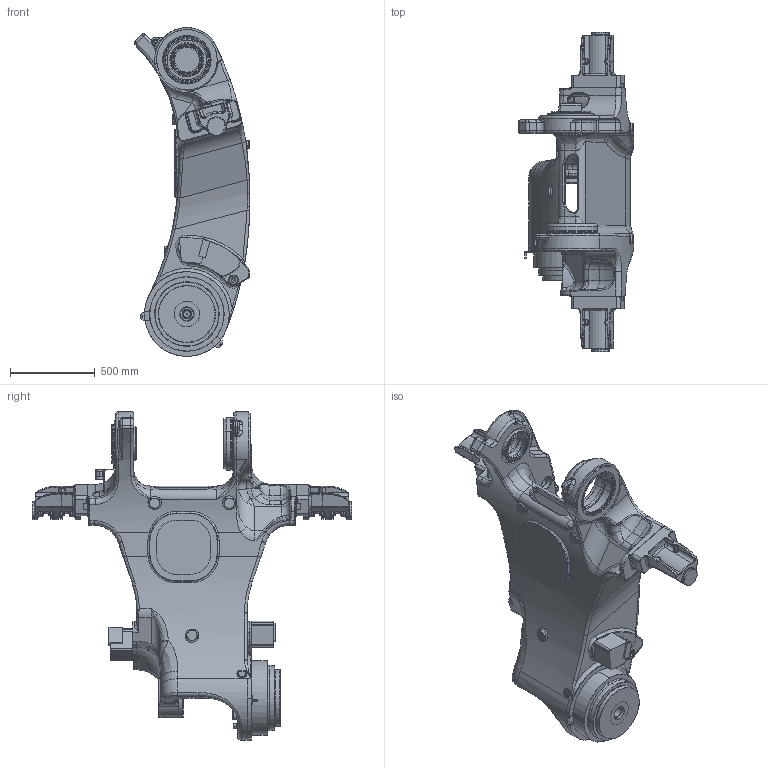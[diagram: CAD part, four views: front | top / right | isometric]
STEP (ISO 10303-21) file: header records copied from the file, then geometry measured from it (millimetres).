
FILE_DESCRIPTION(('CATIA V5 STEP Exchange','CAx-IF Rec.Pracs.--- Model Styling and Organization---1.2---2011-12-15','CAx-IF Rec.Pracs.--- Geometric and Assembly Validation Properties ---3.1---2011-10-19'),'2;1');
FILE_NAME('Z:\ROBOT\CATIA06\products\MC1000DL\Light_model\Step\050_J2_2ndArm_MC1000DL-02.stp','2016-12-26T04:10:30+00:00',('none'),('none'),'Version 5-6 Release 2012','CATIA V5 STEP AP214','none');
FILE_SCHEMA(('AUTOMOTIVE_DESIGN { 1 0 10303 214 1 1 1 1 }'));
Products named in the file (1): 050_J2_2ndArm_MC1000DL-02
Bounding box: 679.84 x 1886 x 1940 mm (x, y, z)
Volume: 151095697.4 mm3; surface area: 11595164.3 mm2
Topology: 45 solids, 48 shells, 3009 faces, 7058 edges, 4130 vertices
Faces by surface type: cylinder 936, plane 664, bspline 537, torus 508, cone 338, sphere 17, extrusion 9
Entity records: 146700 total; most frequent: CARTESIAN_POINT 85649, ORIENTED_EDGE 13926, DIRECTION 8970, EDGE_CURVE 6963, AXIS2_PLACEMENT_3D 4724, VERTEX_POINT 4130, EDGE_LOOP 3177, ADVANCED_FACE 3009
